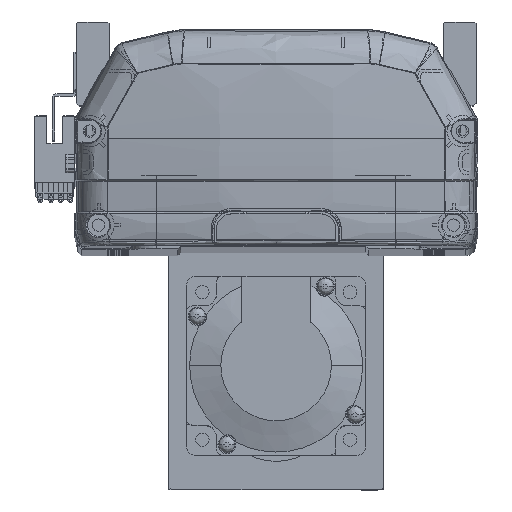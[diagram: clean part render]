
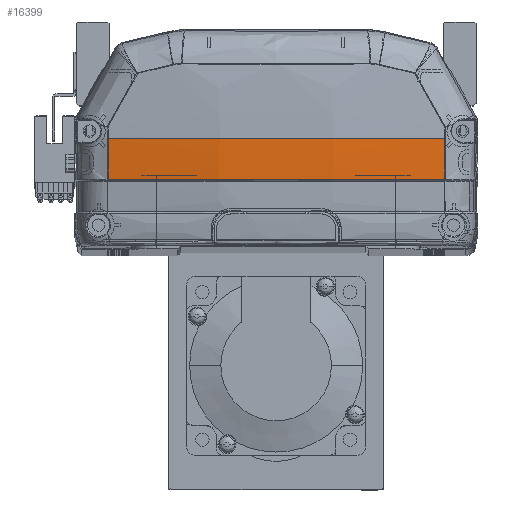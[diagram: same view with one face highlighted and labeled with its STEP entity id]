
A CAD part, top view. The second image highlights one B-rep face of the part: STEP entity #16399.
In plain terms, the highlighted free-form (B-spline) face has degree [3, 3] with [4, 4] control points.
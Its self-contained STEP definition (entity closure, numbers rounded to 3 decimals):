
#23 = CARTESIAN_POINT ( 'NONE',  ( -56.647, 31.405, -5.158 ) ) ;
#221 = CARTESIAN_POINT ( 'NONE',  ( -56.652, 26.814, -5.045 ) ) ;
#436 = DIRECTION ( 'NONE',  ( 0., 0., -1. ) ) ;
#495 = CARTESIAN_POINT ( 'NONE',  ( 56.647, 31.387, -5.158 ) ) ;
#1614 = CARTESIAN_POINT ( 'NONE',  ( -19.295, 21.828, -11.186 ) ) ;
#4160 = CARTESIAN_POINT ( 'NONE',  ( 56.647, 35.969, -5.158 ) ) ;
#5656 = CARTESIAN_POINT ( 'NONE',  ( 8.363, 22.225, -9.48 ) ) ;
#6040 = CARTESIAN_POINT ( 'NONE',  ( 19.121, 22.225, -9.064 ) ) ;
#6174 = CARTESIAN_POINT ( 'NONE',  ( 19.295, 21.828, -11.186 ) ) ;
#6552 = CARTESIAN_POINT ( 'NONE',  ( 57.335, 36., -5.042 ) ) ;
#7288 = EDGE_CURVE ( 'NONE', #46396, #27512, #30583, .T. ) ;
#9225 = AXIS2_PLACEMENT_3D ( 'NONE', #27573, #22599, #436 ) ;
#10375 = CARTESIAN_POINT ( 'NONE',  ( 23.877, 22.225, -8.763 ) ) ;
#11271 = EDGE_CURVE ( 'NONE', #23009, #27512, #27979, .T. ) ;
#14737 = CARTESIAN_POINT ( 'NONE',  ( 2.357, 22.225, -9.562 ) ) ;
#15125 = CARTESIAN_POINT ( 'NONE',  ( -56.661, 22.225, -4.818 ) ) ;
#15258 = CARTESIAN_POINT ( 'NONE',  ( -57.335, 36., -5.042 ) ) ;
#16253 = DIRECTION ( 'NONE',  ( 0., 0., -1. ) ) ;
#16399 = ADVANCED_FACE ( 'NONE', ( #20359 ), #54377, .T. ) ;
#16583 = AXIS2_PLACEMENT_3D ( 'NONE', #56843, #16253, #57045 ) ;
#16653 = EDGE_CURVE ( 'NONE', #46396, #50058, #37589, .T. ) ;
#18463 = CARTESIAN_POINT ( 'NONE',  ( 56.652, 26.806, -5.044 ) ) ;
#18956 = EDGE_CURVE ( 'NONE', #50058, #44337, #41590, .T. ) ;
#20359 = FACE_OUTER_BOUND ( 'NONE', #49766, .T. ) ;
#21555 = CARTESIAN_POINT ( 'NONE',  ( 56.647, 36., -5.158 ) ) ;
#22599 = DIRECTION ( 'NONE',  ( 0., 1., 0. ) ) ;
#23009 = VERTEX_POINT ( 'NONE', #27447 ) ;
#23261 = CARTESIAN_POINT ( 'NONE',  ( 11.954, 22.225, -9.367 ) ) ;
#23843 = CARTESIAN_POINT ( 'NONE',  ( 56.661, 22.225, -4.818 ) ) ;
#24382 = ORIENTED_EDGE ( 'NONE', *, *, #11271, .F. ) ;
#24563 = CARTESIAN_POINT ( 'NONE',  ( -19.295, 36., -11.535 ) ) ;
#24753 = CARTESIAN_POINT ( 'NONE',  ( 19.295, 36., -11.535 ) ) ;
#25471 = CIRCLE ( 'NONE', #9225, 340.733 ) ;
#27152 = CARTESIAN_POINT ( 'NONE',  ( -56.661, 22.225, -4.818 ) ) ;
#27447 = CARTESIAN_POINT ( 'NONE',  ( -56.647, 36., -5.158 ) ) ;
#27512 = VERTEX_POINT ( 'NONE', #53729 ) ;
#27573 = CARTESIAN_POINT ( 'NONE',  ( 0., 36., 330.833 ) ) ;
#27809 = CARTESIAN_POINT ( 'NONE',  ( 56.647, 35.969, -5.158 ) ) ;
#27825 = CARTESIAN_POINT ( 'NONE',  ( 4.761, 22.225, -9.537 ) ) ;
#27979 = B_SPLINE_CURVE_WITH_KNOTS ( 'NONE', 3,
 ( #45483, #23, #221, #27152 ),
 .UNSPECIFIED., .F., .F.,
 ( 4, 4 ),
 ( 0., 1. ),
 .UNSPECIFIED. ) ;
#28334 = CARTESIAN_POINT ( 'NONE',  ( -57.335, 22.148, -4.7 ) ) ;
#28405 = CARTESIAN_POINT ( 'NONE',  ( 38.071, 22.225, -7.566 ) ) ;
#28953 = CARTESIAN_POINT ( 'NONE',  ( -19.295, 31.274, -11.535 ) ) ;
#30583 = B_SPLINE_CURVE_WITH_KNOTS ( 'NONE', 3,
 ( #23843, #54921, #28405, #10375, #6040, #23261, #5656, #27825, #14737, #32605, #37123, #33195, #15125 ),
 .UNSPECIFIED., .F., .F.,
 ( 4, 2, 2, 1, 2, 2, 4 ),
 ( 0., 0.25, 0.375, 0.438, 0.469, 0.5, 1. ),
 .UNSPECIFIED. ) ;
#32605 = CARTESIAN_POINT ( 'NONE',  ( 1.152, 22.225, -9.568 ) ) ;
#33195 = CARTESIAN_POINT ( 'NONE',  ( -38.235, 22.225, -7.93 ) ) ;
#33315 = CARTESIAN_POINT ( 'NONE',  ( -19.295, 26.549, -11.419 ) ) ;
#37123 = CARTESIAN_POINT ( 'NONE',  ( -19.28, 22.225, -9.565 ) ) ;
#37589 = B_SPLINE_CURVE_WITH_KNOTS ( 'NONE', 3,
 ( #41055, #18463, #495, #27809 ),
 .UNSPECIFIED., .F., .F.,
 ( 4, 4 ),
 ( 0., 1. ),
 .UNSPECIFIED. ) ;
#37836 = CARTESIAN_POINT ( 'NONE',  ( -57.335, 31.38, -5.042 ) ) ;
#41025 = ORIENTED_EDGE ( 'NONE', *, *, #43066, .F. ) ;
#41055 = CARTESIAN_POINT ( 'NONE',  ( 56.661, 22.225, -4.818 ) ) ;
#41590 = CIRCLE ( 'NONE', #16583, 6395.966 ) ;
#41961 = CARTESIAN_POINT ( 'NONE',  ( 57.335, 26.762, -4.928 ) ) ;
#42166 = CARTESIAN_POINT ( 'NONE',  ( 57.335, 22.148, -4.7 ) ) ;
#43066 = EDGE_CURVE ( 'NONE', #44337, #23009, #25471, .T. ) ;
#44337 = VERTEX_POINT ( 'NONE', #21555 ) ;
#45483 = CARTESIAN_POINT ( 'NONE',  ( -56.647, 36., -5.158 ) ) ;
#46396 = VERTEX_POINT ( 'NONE', #53735 ) ;
#46487 = CARTESIAN_POINT ( 'NONE',  ( 57.335, 31.38, -5.042 ) ) ;
#48140 = ORIENTED_EDGE ( 'NONE', *, *, #16653, .F. ) ;
#49766 = EDGE_LOOP ( 'NONE', ( #41025, #55618, #48140, #50663, #24382 ) ) ;
#50058 = VERTEX_POINT ( 'NONE', #4160 ) ;
#50663 = ORIENTED_EDGE ( 'NONE', *, *, #7288, .T. ) ;
#51657 = CARTESIAN_POINT ( 'NONE',  ( 19.295, 26.549, -11.419 ) ) ;
#51845 = CARTESIAN_POINT ( 'NONE',  ( 19.295, 31.274, -11.535 ) ) ;
#53729 = CARTESIAN_POINT ( 'NONE',  ( -56.661, 22.225, -4.818 ) ) ;
#53735 = CARTESIAN_POINT ( 'NONE',  ( 56.661, 22.225, -4.818 ) ) ;
#54377 =( BOUNDED_SURFACE ( )  B_SPLINE_SURFACE ( 3, 3, ( 
 ( #42166, #41961, #46487, #6552 ),
 ( #6174, #51657, #51845, #24753 ),
 ( #1614, #33315, #28953, #24563 ),
 ( #28334, #56230, #37836, #15258 ) ),
 .UNSPECIFIED., .F., .F., .F. ) 
 B_SPLINE_SURFACE_WITH_KNOTS ( ( 4, 4 ),
 ( 4, 4 ),
 ( 0., 1. ),
 ( 0., 1. ),
 .UNSPECIFIED. ) 
 GEOMETRIC_REPRESENTATION_ITEM ( )  RATIONAL_B_SPLINE_SURFACE ( (
 ( 1., 1., 1., 1.),
 ( 0.99, 0.99, 0.99, 0.99),
 ( 0.99, 0.99, 0.99, 0.99),
 ( 1., 1., 1., 1.) ) ) 
 REPRESENTATION_ITEM ( '' )  SURFACE ( )  );
#54921 = CARTESIAN_POINT ( 'NONE',  ( 47.432, 22.225, -6.377 ) ) ;
#55618 = ORIENTED_EDGE ( 'NONE', *, *, #18956, .F. ) ;
#56230 = CARTESIAN_POINT ( 'NONE',  ( -57.335, 26.762, -4.928 ) ) ;
#56843 = CARTESIAN_POINT ( 'NONE',  ( 6452.613, 35.969, -5.158 ) ) ;
#57045 = DIRECTION ( 'NONE',  ( -1., 0., 0. ) ) ;
